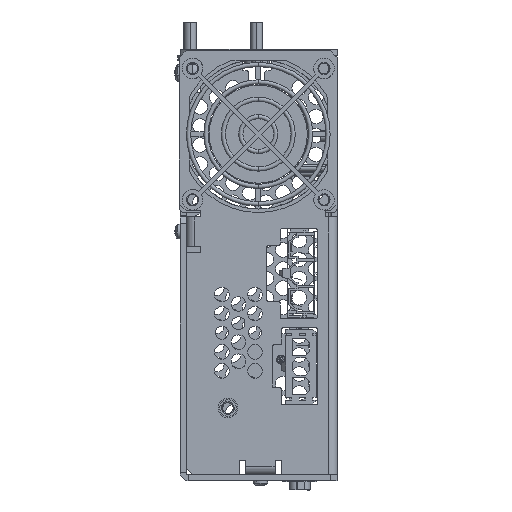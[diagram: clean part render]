
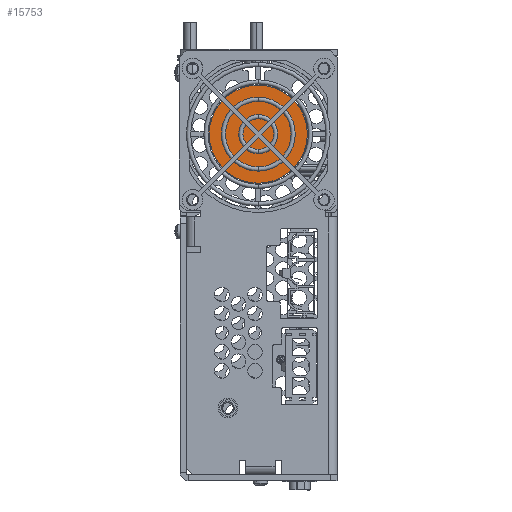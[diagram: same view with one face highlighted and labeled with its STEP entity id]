
A CAD part, left-side view. The second image highlights one B-rep face of the part: STEP entity #15753.
In plain terms, the highlighted planar face has unit normal (-1, 0, 0).
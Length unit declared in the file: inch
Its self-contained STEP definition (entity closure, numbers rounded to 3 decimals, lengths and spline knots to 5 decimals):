
#14461 = VERTEX_POINT ( 'NONE', #41247 ) ;
#15110 = EDGE_CURVE ( 'NONE', #14461, #18408, #42006, .T. ) ;
#15729 = ORIENTED_EDGE ( 'NONE', *, *, #15730, .F. ) ;
#15730 = EDGE_CURVE ( 'NONE', #18408, #14461, #43025, .T. ) ;
#15753 = ADVANCED_FACE ( 'NONE', ( #43064 ), #43058, .F. ) ;
#15754 = EDGE_LOOP ( 'NONE', ( #15755, #15729 ) ) ;
#15755 = ORIENTED_EDGE ( 'NONE', *, *, #15110, .F. ) ;
#18408 = VERTEX_POINT ( 'NONE', #47768 ) ;
#41247 = CARTESIAN_POINT ( 'NONE',  ( -4.30375, 1.1811, 1.2314 ) ) ;
#42002 = DIRECTION ( 'NONE',  ( 0., 0., -1. ) ) ;
#42003 = DIRECTION ( 'NONE',  ( 1., 0., 0. ) ) ;
#42004 = CARTESIAN_POINT ( 'NONE',  ( -4.30375, 1.1811, 1.9664 ) ) ;
#42005 = AXIS2_PLACEMENT_3D ( 'NONE', #42004, #42003, #42002 ) ;
#42006 = CIRCLE ( 'NONE', #42005, 0.735 ) ;
#43021 = DIRECTION ( 'NONE',  ( 0., 0., -1. ) ) ;
#43022 = DIRECTION ( 'NONE',  ( 1., 0., 0. ) ) ;
#43023 = CARTESIAN_POINT ( 'NONE',  ( -4.30375, 1.1811, 1.9664 ) ) ;
#43024 = AXIS2_PLACEMENT_3D ( 'NONE', #43023, #43022, #43021 ) ;
#43025 = CIRCLE ( 'NONE', #43024, 0.735 ) ;
#43054 = DIRECTION ( 'NONE',  ( 0., 0., -1. ) ) ;
#43055 = DIRECTION ( 'NONE',  ( 1., 0., 0. ) ) ;
#43056 = CARTESIAN_POINT ( 'NONE',  ( -4.30375, 1.1811, 1.9664 ) ) ;
#43057 = AXIS2_PLACEMENT_3D ( 'NONE', #43056, #43055, #43054 ) ;
#43058 = PLANE ( 'NONE',  #43057 ) ;
#43064 = FACE_OUTER_BOUND ( 'NONE', #15754, .T. ) ;
#47768 = CARTESIAN_POINT ( 'NONE',  ( -4.30375, 1.1811, 2.7014 ) ) ;
